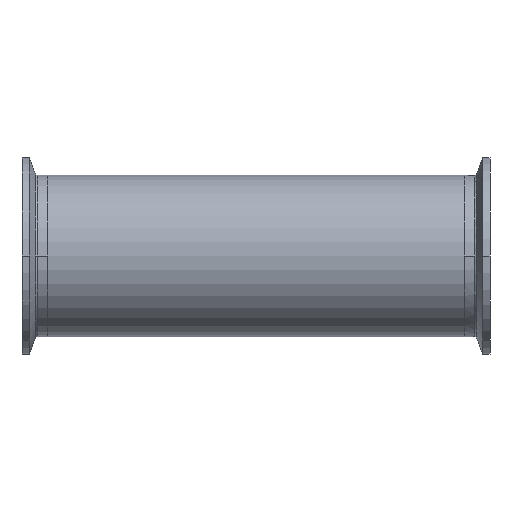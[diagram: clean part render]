
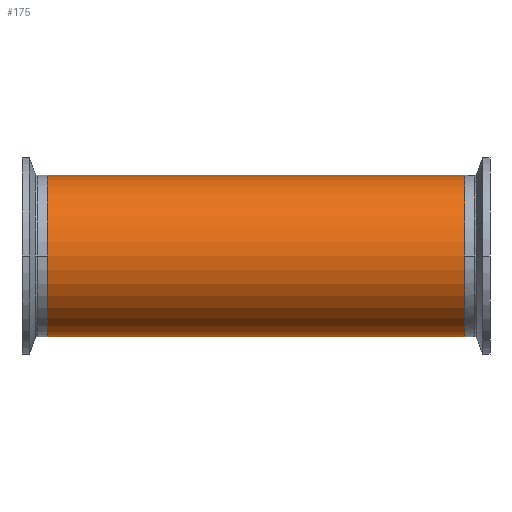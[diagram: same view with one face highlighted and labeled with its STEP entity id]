
A CAD part, front view. The second image highlights one B-rep face of the part: STEP entity #175.
In plain terms, the highlighted cylindrical face has radius 31.75 mm (diameter 63.5 mm), a partial arc.
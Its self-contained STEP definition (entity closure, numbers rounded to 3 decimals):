
#29 = AXIS2_PLACEMENT_3D ( 'NONE', #1953, #989, #2957 ) ;
#54 = VERTEX_POINT ( 'NONE', #766 ) ;
#166 = EDGE_LOOP ( 'NONE', ( #3625, #3993, #1767, #1747 ) ) ;
#175 = ADVANCED_FACE ( 'NONE', ( #2121 ), #2025, .T. ) ;
#506 = CARTESIAN_POINT ( 'NONE',  ( 171.903, 0., 31.75 ) ) ;
#621 = CARTESIAN_POINT ( 'NONE',  ( -82.1, 0., -31.75 ) ) ;
#766 = CARTESIAN_POINT ( 'NONE',  ( -82.1, 0., 31.75 ) ) ;
#989 = DIRECTION ( 'NONE',  ( -1., 0., 0. ) ) ;
#1105 = LINE ( 'NONE', #1690, #2095 ) ;
#1331 = EDGE_CURVE ( 'NONE', #54, #1869, #2851, .T. ) ;
#1389 = EDGE_CURVE ( 'NONE', #1944, #1869, #1105, .T. ) ;
#1580 = VECTOR ( 'NONE', #2804, 1000. ) ;
#1690 = CARTESIAN_POINT ( 'NONE',  ( 171.903, 0., -31.75 ) ) ;
#1747 = ORIENTED_EDGE ( 'NONE', *, *, #1331, .T. ) ;
#1767 = ORIENTED_EDGE ( 'NONE', *, *, #3393, .T. ) ;
#1781 = LINE ( 'NONE', #506, #1580 ) ;
#1869 = VERTEX_POINT ( 'NONE', #621 ) ;
#1886 = CIRCLE ( 'NONE', #4057, 31.75 ) ;
#1891 = CARTESIAN_POINT ( 'NONE',  ( 82.1, 0., 0. ) ) ;
#1944 = VERTEX_POINT ( 'NONE', #2027 ) ;
#1953 = CARTESIAN_POINT ( 'NONE',  ( 171.903, 0., 0. ) ) ;
#2000 = VERTEX_POINT ( 'NONE', #3951 ) ;
#2025 = CYLINDRICAL_SURFACE ( 'NONE', #29, 31.75 ) ;
#2027 = CARTESIAN_POINT ( 'NONE',  ( 82.1, 0., -31.75 ) ) ;
#2078 = DIRECTION ( 'NONE',  ( 0., 0., 1. ) ) ;
#2095 = VECTOR ( 'NONE', #3293, 1000. ) ;
#2121 = FACE_OUTER_BOUND ( 'NONE', #166, .T. ) ;
#2212 = DIRECTION ( 'NONE',  ( 0., 0., 1. ) ) ;
#2261 = CARTESIAN_POINT ( 'NONE',  ( -82.1, 0., 0. ) ) ;
#2660 = DIRECTION ( 'NONE',  ( 1., 0., 0. ) ) ;
#2804 = DIRECTION ( 'NONE',  ( -1., 0., 0. ) ) ;
#2851 = CIRCLE ( 'NONE', #3671, 31.75 ) ;
#2957 = DIRECTION ( 'NONE',  ( 0., 0., 1. ) ) ;
#3293 = DIRECTION ( 'NONE',  ( -1., 0., 0. ) ) ;
#3393 = EDGE_CURVE ( 'NONE', #2000, #54, #1781, .T. ) ;
#3625 = ORIENTED_EDGE ( 'NONE', *, *, #1389, .F. ) ;
#3667 = EDGE_CURVE ( 'NONE', #1944, #2000, #1886, .T. ) ;
#3671 = AXIS2_PLACEMENT_3D ( 'NONE', #2261, #2660, #2078 ) ;
#3951 = CARTESIAN_POINT ( 'NONE',  ( 82.1, 0., 31.75 ) ) ;
#3993 = ORIENTED_EDGE ( 'NONE', *, *, #3667, .T. ) ;
#4057 = AXIS2_PLACEMENT_3D ( 'NONE', #1891, #4118, #2212 ) ;
#4118 = DIRECTION ( 'NONE',  ( -1., 0., 0. ) ) ;
